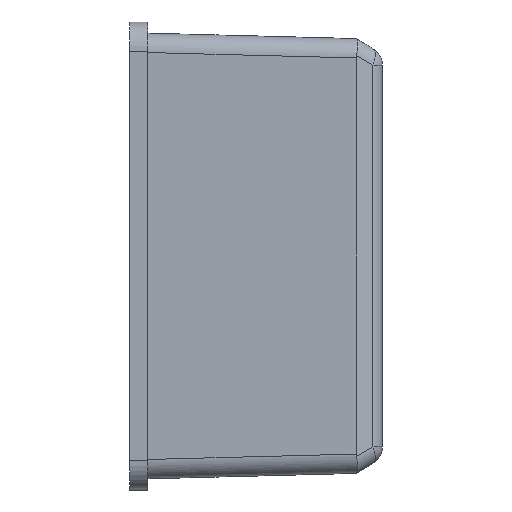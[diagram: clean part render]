
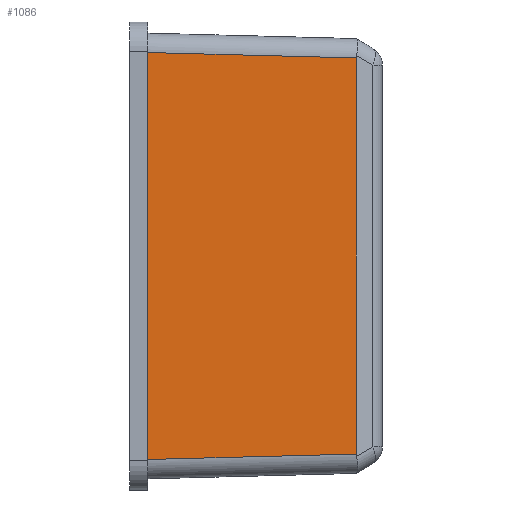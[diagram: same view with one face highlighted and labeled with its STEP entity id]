
A CAD part, left-side view. The second image highlights one B-rep face of the part: STEP entity #1086.
In plain terms, the highlighted planar face has unit normal (-1, -0.026, 0).
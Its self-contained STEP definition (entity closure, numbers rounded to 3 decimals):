
#47 = CARTESIAN_POINT ( 'NONE',  ( -32.388, -21.478, 22.366 ) ) ;
#100 = ORIENTED_EDGE ( 'NONE', *, *, #1676, .T. ) ;
#121 = CARTESIAN_POINT ( 'NONE',  ( -32.95, 0., -23. ) ) ;
#227 = DIRECTION ( 'NONE',  ( -0.026, 0.999, 0.026 ) ) ;
#324 = LINE ( 'NONE', #743, #2045 ) ;
#437 = LINE ( 'NONE', #47, #1709 ) ;
#462 = DIRECTION ( 'NONE',  ( -1., -0.026, 0. ) ) ;
#569 = CARTESIAN_POINT ( 'NONE',  ( -32.388, -21.478, 20.438 ) ) ;
#573 = CARTESIAN_POINT ( 'NONE',  ( -32.95, 0., -23. ) ) ;
#637 = CARTESIAN_POINT ( 'NONE',  ( -32.388, -21.478, -20.438 ) ) ;
#658 = VERTEX_POINT ( 'NONE', #2075 ) ;
#743 = CARTESIAN_POINT ( 'NONE',  ( -32.951, 0.052, -21.002 ) ) ;
#778 = ORIENTED_EDGE ( 'NONE', *, *, #1448, .F. ) ;
#826 = LINE ( 'NONE', #907, #1313 ) ;
#846 = EDGE_LOOP ( 'NONE', ( #1164, #100, #778, #1739 ) ) ;
#907 = CARTESIAN_POINT ( 'NONE',  ( -32.92, -1.151, 20.971 ) ) ;
#1065 = CARTESIAN_POINT ( 'NONE',  ( -32.95, 0., 21.001 ) ) ;
#1086 = ADVANCED_FACE ( 'NONE', ( #1526 ), #2132, .T. ) ;
#1114 = VERTEX_POINT ( 'NONE', #637 ) ;
#1164 = ORIENTED_EDGE ( 'NONE', *, *, #1669, .T. ) ;
#1239 = VECTOR ( 'NONE', #1408, 1000. ) ;
#1295 = LINE ( 'NONE', #573, #1239 ) ;
#1313 = VECTOR ( 'NONE', #227, 1000. ) ;
#1408 = DIRECTION ( 'NONE',  ( 0., 0., 1. ) ) ;
#1448 = EDGE_CURVE ( 'NONE', #658, #1626, #1295, .T. ) ;
#1491 = AXIS2_PLACEMENT_3D ( 'NONE', #121, #462, #1636 ) ;
#1526 = FACE_OUTER_BOUND ( 'NONE', #846, .T. ) ;
#1626 = VERTEX_POINT ( 'NONE', #1065 ) ;
#1636 = DIRECTION ( 'NONE',  ( 0.026, -1., 0. ) ) ;
#1669 = EDGE_CURVE ( 'NONE', #1114, #2176, #437, .T. ) ;
#1676 = EDGE_CURVE ( 'NONE', #2176, #1626, #826, .T. ) ;
#1708 = EDGE_CURVE ( 'NONE', #658, #1114, #324, .T. ) ;
#1709 = VECTOR ( 'NONE', #1738, 1000. ) ;
#1738 = DIRECTION ( 'NONE',  ( 0., 0., 1. ) ) ;
#1739 = ORIENTED_EDGE ( 'NONE', *, *, #1708, .T. ) ;
#1750 = DIRECTION ( 'NONE',  ( 0.026, -0.999, 0.026 ) ) ;
#2045 = VECTOR ( 'NONE', #1750, 1000. ) ;
#2075 = CARTESIAN_POINT ( 'NONE',  ( -32.95, 0., -21.001 ) ) ;
#2132 = PLANE ( 'NONE',  #1491 ) ;
#2176 = VERTEX_POINT ( 'NONE', #569 ) ;
